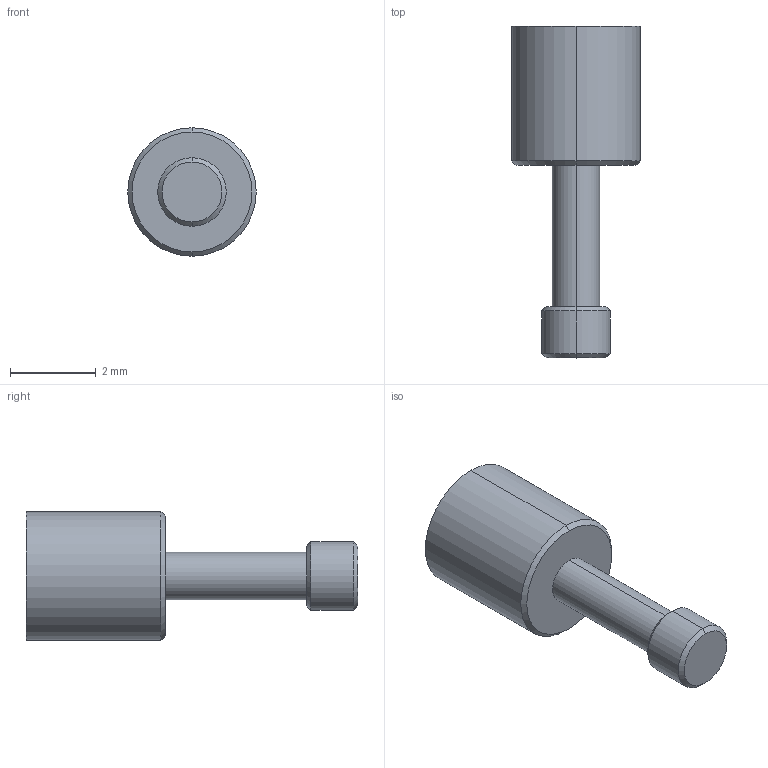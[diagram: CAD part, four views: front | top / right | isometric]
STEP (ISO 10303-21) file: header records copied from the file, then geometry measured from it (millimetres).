
FILE_DESCRIPTION (( 'STEP AP214' ), '1' );
FILE_NAME ('IA 307520.STEP', '2013-10-01T10:37:34', ( '' ), ( '' ), 'SwSTEP 2.0', 'SolidWorks 2011', '' );
FILE_SCHEMA (( 'AUTOMOTIVE_DESIGN' ));
Length unit declared in the file: millimetre
Products named in the file (1): IA 307520
Bounding box: 3 x 7.75 x 3 mm (x, y, z)
Volume: 28.1 mm3; surface area: 65.9 mm2
Topology: 1 solids, 1 shells, 49 faces, 117 edges, 76 vertices
Faces by surface type: plane 23, cylinder 20, cone 6
Entity records: 1485 total; most frequent: DIRECTION 263, CARTESIAN_POINT 243, ORIENTED_EDGE 234, EDGE_CURVE 117, AXIS2_PLACEMENT_3D 96, VERTEX_POINT 76, VECTOR 71, LINE 71
